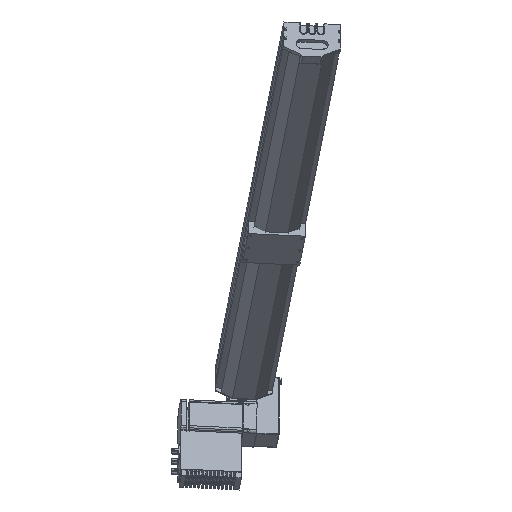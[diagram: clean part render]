
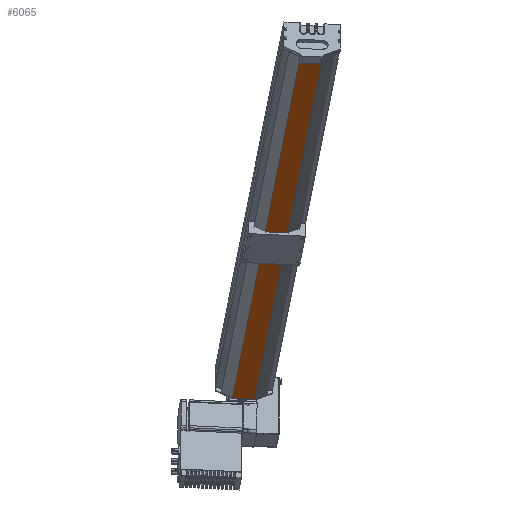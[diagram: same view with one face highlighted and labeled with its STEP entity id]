
A CAD part, isometric view. The second image highlights one B-rep face of the part: STEP entity #6065.
In plain terms, the highlighted planar face has unit normal (-0.632, -0.625, -0.459) as drawn and (0, 1, 0) by its records, which use the part's own axes.
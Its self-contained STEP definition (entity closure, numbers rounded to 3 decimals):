
#5416 = ORIENTED_EDGE ( 'NONE', *, *, #8880, .F. ) ;
#5850 = VERTEX_POINT ( 'NONE', #21906 ) ;
#5866 = ORIENTED_EDGE ( 'NONE', *, *, #8765, .F. ) ;
#5875 = EDGE_CURVE ( 'NONE', #5877, #6067, #21847, .T. ) ;
#5877 = VERTEX_POINT ( 'NONE', #21855 ) ;
#5995 = ORIENTED_EDGE ( 'NONE', *, *, #5875, .T. ) ;
#6049 = EDGE_LOOP ( 'NONE', ( #5995, #5416, #5866, #8762 ) ) ;
#6065 = ADVANCED_FACE ( 'NONE', ( #22353 ), #22277, .F. ) ;
#6067 = VERTEX_POINT ( 'NONE', #22331 ) ;
#8729 = VERTEX_POINT ( 'NONE', #15769 ) ;
#8762 = ORIENTED_EDGE ( 'NONE', *, *, #8828, .T. ) ;
#8765 = EDGE_CURVE ( 'NONE', #5850, #8729, #15700, .T. ) ;
#8828 = EDGE_CURVE ( 'NONE', #5850, #5877, #15799, .T. ) ;
#8880 = EDGE_CURVE ( 'NONE', #8729, #6067, #15650, .T. ) ;
#15645 = DIRECTION ( 'NONE',  ( 0., 0., -1. ) ) ;
#15646 = VECTOR ( 'NONE', #15645, 1000. ) ;
#15647 = CARTESIAN_POINT ( 'NONE',  ( -20., 61.75, 1300. ) ) ;
#15650 = LINE ( 'NONE', #15647, #15646 ) ;
#15697 = DIRECTION ( 'NONE',  ( -1., 0., 0. ) ) ;
#15698 = VECTOR ( 'NONE', #15697, 1000. ) ;
#15699 = CARTESIAN_POINT ( 'NONE',  ( 20., 61.75, 1300. ) ) ;
#15700 = LINE ( 'NONE', #15699, #15698 ) ;
#15769 = CARTESIAN_POINT ( 'NONE',  ( -20., 61.75, 1300. ) ) ;
#15788 = DIRECTION ( 'NONE',  ( 0., 0., -1. ) ) ;
#15789 = VECTOR ( 'NONE', #15788, 1000. ) ;
#15799 = LINE ( 'NONE', #15801, #15789 ) ;
#15801 = CARTESIAN_POINT ( 'NONE',  ( 20., 61.75, 1300. ) ) ;
#21844 = DIRECTION ( 'NONE',  ( -1., 0., 0. ) ) ;
#21845 = VECTOR ( 'NONE', #21844, 1000. ) ;
#21846 = CARTESIAN_POINT ( 'NONE',  ( 20., 61.75, 0. ) ) ;
#21847 = LINE ( 'NONE', #21846, #21845 ) ;
#21855 = CARTESIAN_POINT ( 'NONE',  ( 20., 61.75, 0. ) ) ;
#21906 = CARTESIAN_POINT ( 'NONE',  ( 20., 61.75, 1300. ) ) ;
#22277 = PLANE ( 'NONE',  #22334 ) ;
#22331 = CARTESIAN_POINT ( 'NONE',  ( -20., 61.75, 0. ) ) ;
#22334 = AXIS2_PLACEMENT_3D ( 'NONE', #22354, #22378, #22377 ) ;
#22353 = FACE_OUTER_BOUND ( 'NONE', #6049, .T. ) ;
#22354 = CARTESIAN_POINT ( 'NONE',  ( 20., 61.75, 1300. ) ) ;
#22377 = DIRECTION ( 'NONE',  ( 0., 0., -1. ) ) ;
#22378 = DIRECTION ( 'NONE',  ( 0., -1., 0. ) ) ;
